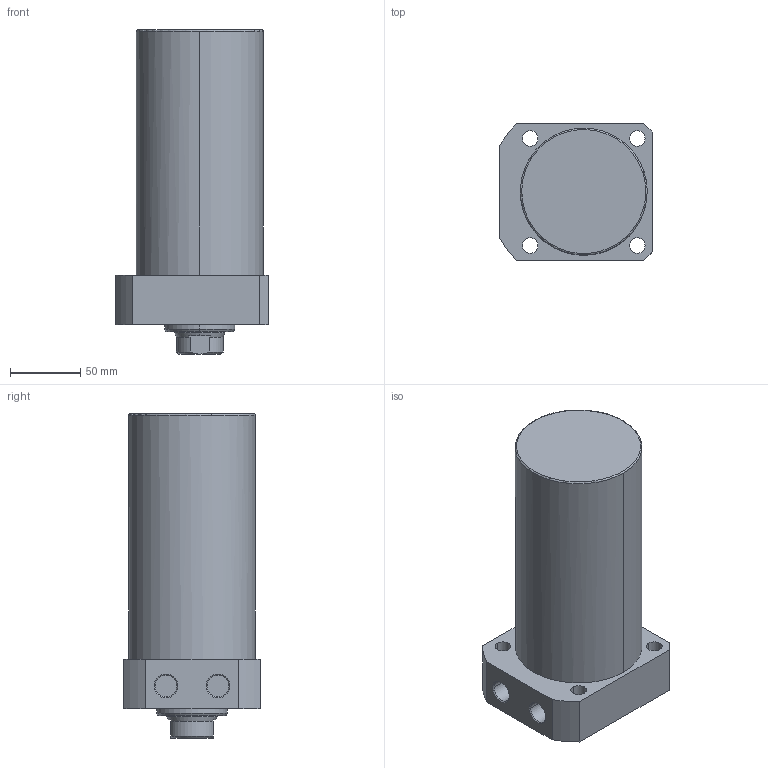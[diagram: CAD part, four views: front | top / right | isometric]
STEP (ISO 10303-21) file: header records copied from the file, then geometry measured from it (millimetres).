
FILE_DESCRIPTION((' '),'2;1');
FILE_NAME( 'TLLR-090CA-130.STEP.stp', '2025-10-24T16:35:19', (' '), ('--- Datakit www.datakit.com---'), ' Datakit CrossCadWare V2024.1 Dec 21 2023', 'Mastercam 2025', ' ');
FILE_SCHEMA(('AUTOMOTIVE_DESIGN { 1 0 10303 214 1 1 1 1 }'));
Length unit declared in the file: millimetre
Products named in the file (1): TLLR-090CA-130
Bounding box: 108 x 97 x 230 mm (x, y, z)
Volume: 1455845.6 mm3; surface area: 94284.8 mm2
Topology: 1 solids, 1 shells, 63 faces, 177 edges, 122 vertices
Faces by surface type: cylinder 28, plane 19, cone 14, torus 2
Entity records: 2172 total; most frequent: CARTESIAN_POINT 409, DIRECTION 400, ORIENTED_EDGE 350, EDGE_CURVE 175, AXIS2_PLACEMENT_3D 169, VERTEX_POINT 122, CIRCLE 105, EDGE_LOOP 79
